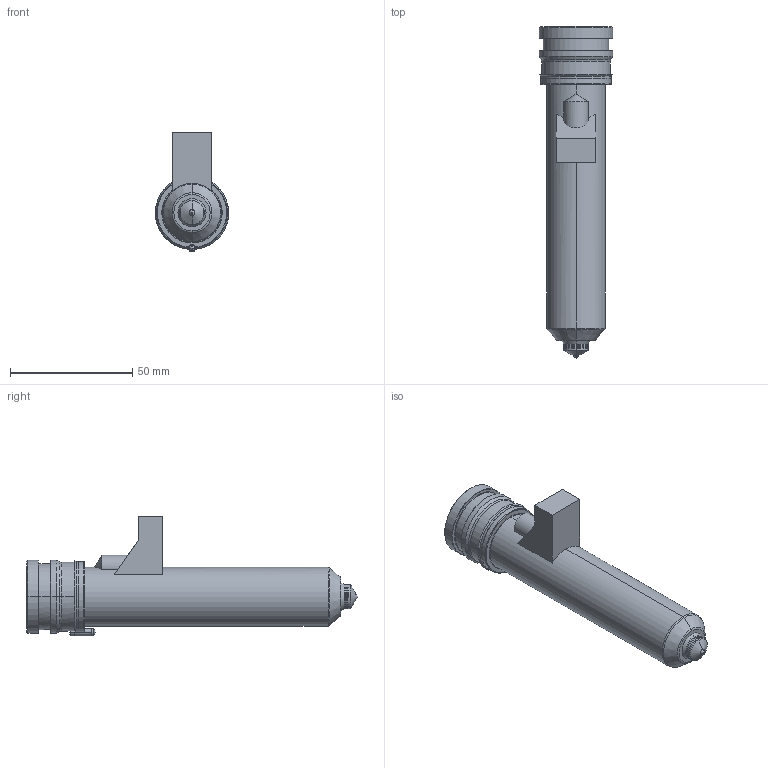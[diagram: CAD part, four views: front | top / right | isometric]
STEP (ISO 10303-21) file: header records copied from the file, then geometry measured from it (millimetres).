
FILE_DESCRIPTION((''),'2;1');
FILE_NAME('MPN-10-29-TS10-116-M','2026-02-05T12:49:27',('UPTIO'),('Thermoplay S.p.A.'),'CREO PARAMETRIC BY PTC INC, 2023494','CREO PARAMETRIC BY PTC INC, 2023494','');
FILE_SCHEMA(('CONFIG_CONTROL_DESIGN','SHAPE_APPEARANCE_LAYERS_GROUPS'));
Length unit declared in the file: millimetre
Products named in the file (1): MPN-10-29-TS10-116-M
Bounding box: 30 x 136 x 49 mm (x, y, z)
Volume: 43144.2 mm3; surface area: 44181.6 mm2
Topology: 3 solids, 5 shells, 542 faces, 1383 edges, 843 vertices
Faces by surface type: cylinder 177, plane 148, bspline 72, torus 67, cone 64, sphere 10, extrusion 4
Entity records: 26864 total; most frequent: CARTESIAN_POINT 11088, ORIENTED_EDGE 2748, DIRECTION 2578, EDGE_CURVE 1374, AXIS2_PLACEMENT_3D 1023, VERTEX_POINT 843, EDGE_LOOP 571, CIRCLE 556
